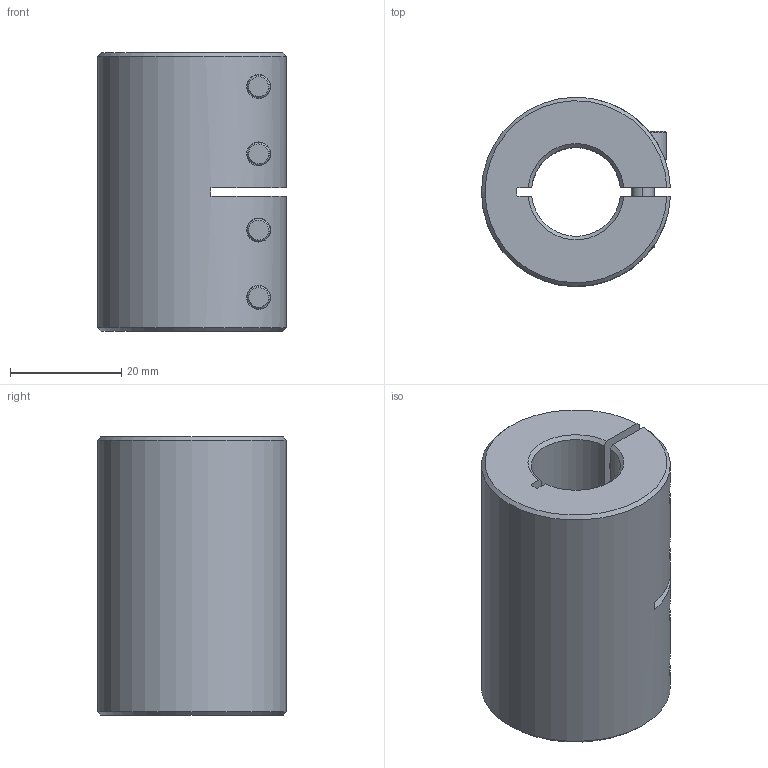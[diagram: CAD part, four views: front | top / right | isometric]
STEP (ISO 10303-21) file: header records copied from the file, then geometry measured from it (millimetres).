
FILE_DESCRIPTION((''),'2;1');
FILE_NAME('MCLX-16-16-F','2016-09-07T',('SYSTEM'),(''),'PRO/ENGINEER BY PARAMETRIC TECHNOLOGY CORPORATION, 2015110','PRO/ENGINEER BY PARAMETRIC TECHNOLOGY CORPORATION, 2015110','');
FILE_SCHEMA(('AUTOMOTIVE_DESIGN { 1 0 10303 214 1 1 1 1 }'));
Length unit declared in the file: inch
Products named in the file (1): MCLX-16-16-F
Bounding box: 33.98 x 33.99 x 50 mm (x, y, z)
Volume: 33140.5 mm3; surface area: 13320.5 mm2
Topology: 1 solids, 1 shells, 126 faces, 301 edges, 193 vertices
Faces by surface type: plane 65, cylinder 39, cone 22
Entity records: 4878 total; most frequent: CARTESIAN_POINT 940, DIRECTION 634, ORIENTED_EDGE 602, EDGE_CURVE 301, AXIS2_PLACEMENT_3D 231, VERTEX_POINT 193, VECTOR 172, LINE 172
